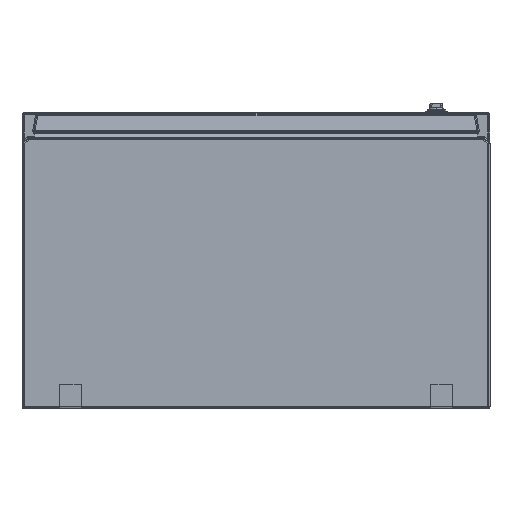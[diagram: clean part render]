
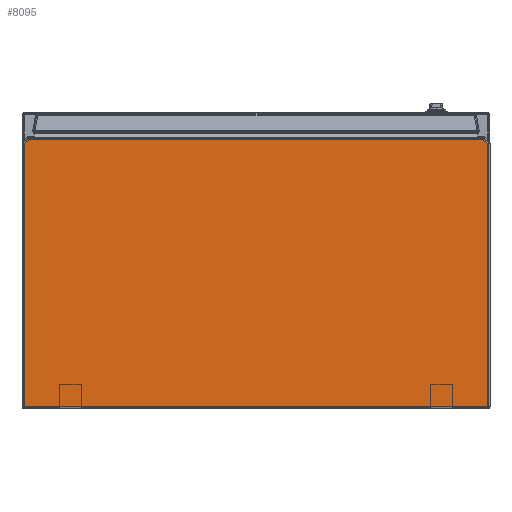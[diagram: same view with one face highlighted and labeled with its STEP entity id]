
A CAD part, front view. The second image highlights one B-rep face of the part: STEP entity #8095.
In plain terms, the highlighted planar face has unit normal (0, -1, 0).
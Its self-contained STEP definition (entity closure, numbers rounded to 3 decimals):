
#194 = DIRECTION ( 'NONE',  ( -0.819, 0., -0.574 ) ) ;
#502 = LINE ( 'NONE', #12648, #32399 ) ;
#548 = CARTESIAN_POINT ( 'NONE',  ( 300., -797.5, -380. ) ) ;
#741 = DIRECTION ( 'NONE',  ( -0.819, 0., 0.574 ) ) ;
#1283 = EDGE_CURVE ( 'NONE', #5242, #34479, #502, .T. ) ;
#2171 = CARTESIAN_POINT ( 'NONE',  ( -297., -797.5, -377. ) ) ;
#2195 = LINE ( 'NONE', #14318, #25947 ) ;
#2890 = ORIENTED_EDGE ( 'NONE', *, *, #1283, .T. ) ;
#2973 = EDGE_CURVE ( 'NONE', #34479, #11025, #2195, .T. ) ;
#5242 = VERTEX_POINT ( 'NONE', #15097 ) ;
#5496 = CARTESIAN_POINT ( 'NONE',  ( 297., -797.5, -39.562 ) ) ;
#6058 = VECTOR ( 'NONE', #37127, 1000. ) ;
#6267 = VECTOR ( 'NONE', #10005, 1000. ) ;
#8095 = ADVANCED_FACE ( 'NONE', ( #15667 ), #27805, .T. ) ;
#8106 = EDGE_CURVE ( 'NONE', #27245, #13145, #15870, .T. ) ;
#8585 = EDGE_CURVE ( 'NONE', #13145, #23351, #12836, .T. ) ;
#8692 = ORIENTED_EDGE ( 'NONE', *, *, #2973, .T. ) ;
#10005 = DIRECTION ( 'NONE',  ( 0., 0., 1. ) ) ;
#11025 = VERTEX_POINT ( 'NONE', #30851 ) ;
#11494 = ORIENTED_EDGE ( 'NONE', *, *, #8585, .T. ) ;
#11869 = CARTESIAN_POINT ( 'NONE',  ( -290.485, -797.5, -35. ) ) ;
#12166 = EDGE_CURVE ( 'NONE', #23351, #5242, #15314, .T. ) ;
#12648 = CARTESIAN_POINT ( 'NONE',  ( -297., -797.5, -380. ) ) ;
#12686 = DIRECTION ( 'NONE',  ( 0., -1., 0. ) ) ;
#12836 = LINE ( 'NONE', #24954, #6058 ) ;
#13145 = VERTEX_POINT ( 'NONE', #25597 ) ;
#14318 = CARTESIAN_POINT ( 'NONE',  ( 300., -797.5, -377. ) ) ;
#15097 = CARTESIAN_POINT ( 'NONE',  ( -297., -797.5, -39.562 ) ) ;
#15314 = LINE ( 'NONE', #27449, #20278 ) ;
#15491 = AXIS2_PLACEMENT_3D ( 'NONE', #548, #12686, #24810 ) ;
#15667 = FACE_OUTER_BOUND ( 'NONE', #16256, .T. ) ;
#15870 = LINE ( 'NONE', #28008, #25645 ) ;
#16256 = EDGE_LOOP ( 'NONE', ( #25065, #19946, #11494, #38620, #2890, #8692 ) ) ;
#19946 = ORIENTED_EDGE ( 'NONE', *, *, #8106, .T. ) ;
#20278 = VECTOR ( 'NONE', #194, 1000. ) ;
#23351 = VERTEX_POINT ( 'NONE', #11869 ) ;
#24770 = DIRECTION ( 'NONE',  ( 0., 0., -1. ) ) ;
#24810 = DIRECTION ( 'NONE',  ( 0., 0., -1. ) ) ;
#24954 = CARTESIAN_POINT ( 'NONE',  ( 300., -797.5, -35. ) ) ;
#25065 = ORIENTED_EDGE ( 'NONE', *, *, #36901, .T. ) ;
#25127 = LINE ( 'NONE', #37303, #6267 ) ;
#25597 = CARTESIAN_POINT ( 'NONE',  ( 290.485, -797.5, -35. ) ) ;
#25645 = VECTOR ( 'NONE', #741, 1000. ) ;
#25947 = VECTOR ( 'NONE', #26464, 1000. ) ;
#26464 = DIRECTION ( 'NONE',  ( 1., 0., 0. ) ) ;
#27245 = VERTEX_POINT ( 'NONE', #5496 ) ;
#27449 = CARTESIAN_POINT ( 'NONE',  ( -297., -797.5, -39.562 ) ) ;
#27805 = PLANE ( 'NONE',  #15491 ) ;
#28008 = CARTESIAN_POINT ( 'NONE',  ( 293.995, -797.5, -37.457 ) ) ;
#30851 = CARTESIAN_POINT ( 'NONE',  ( 297., -797.5, -377. ) ) ;
#32399 = VECTOR ( 'NONE', #24770, 1000. ) ;
#34479 = VERTEX_POINT ( 'NONE', #2171 ) ;
#36901 = EDGE_CURVE ( 'NONE', #11025, #27245, #25127, .T. ) ;
#37127 = DIRECTION ( 'NONE',  ( -1., 0., 0. ) ) ;
#37303 = CARTESIAN_POINT ( 'NONE',  ( 297., -797.5, -380. ) ) ;
#38620 = ORIENTED_EDGE ( 'NONE', *, *, #12166, .T. ) ;
